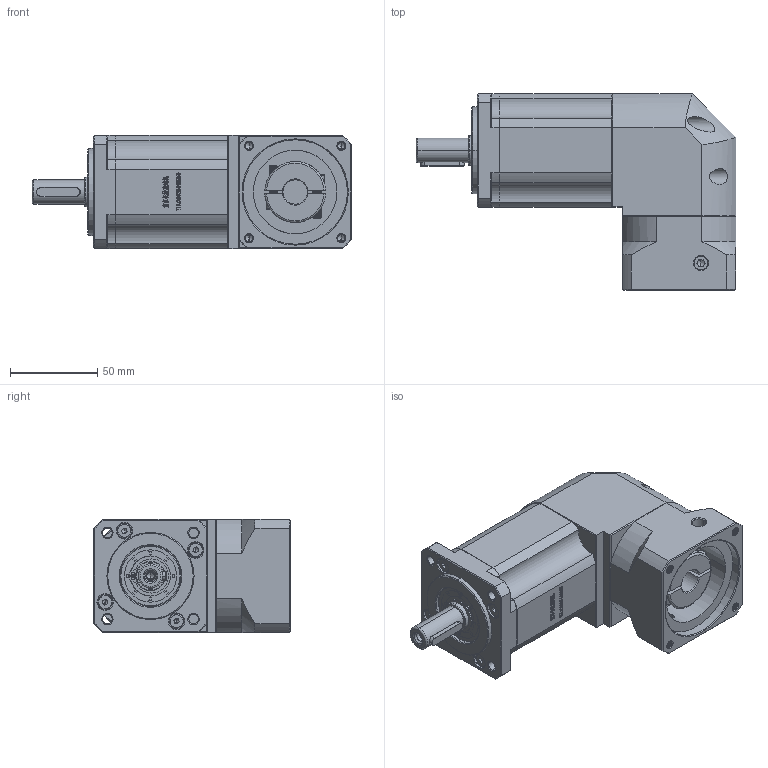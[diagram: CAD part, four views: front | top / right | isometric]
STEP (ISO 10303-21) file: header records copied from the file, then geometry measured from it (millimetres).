
FILE_DESCRIPTION (( 'STEP AP214' ), '1' );
FILE_NAME ('ZBR60-D14-L3-14-60-75-M5.STEP', '2022-04-19T09:00:50', ( '' ), ( 'Microsoft' ), 'SwSTEP 2.0', 'SolidWorks 2016', '' );
FILE_SCHEMA (( 'AUTOMOTIVE_DESIGN' ));
Length unit declared in the file: millimetre
Products named in the file (1): ZBR60-D14-L3-14-60-75-M5
Bounding box: 183.5 x 112.7 x 65 mm (x, y, z)
Volume: 661235.9 mm3; surface area: 86986.4 mm2
Topology: 5 solids, 5 shells, 2843 faces, 7713 edges, 5006 vertices
Faces by surface type: plane 1472, bspline 579, cylinder 432, cone 326, torus 34
Entity records: 155129 total; most frequent: CARTESIAN_POINT 56505, ORIENTED_EDGE 15366, DIRECTION 11725, EDGE_CURVE 7683, VECTOR 5057, LINE 5057, VERTEX_POINT 5006, AXIS2_PLACEMENT_3D 3334
